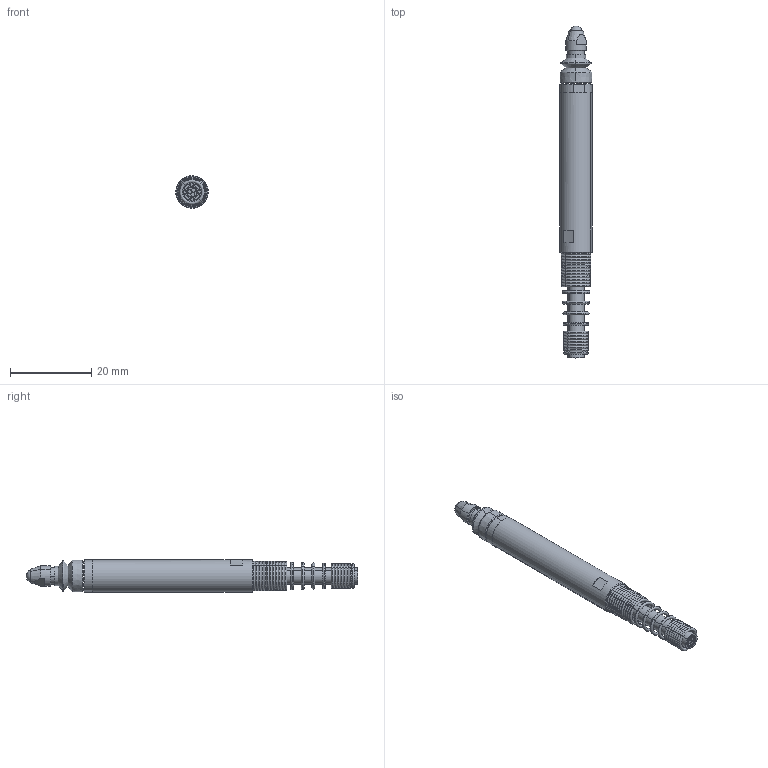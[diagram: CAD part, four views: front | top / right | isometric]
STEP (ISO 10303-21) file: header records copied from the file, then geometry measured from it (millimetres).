
FILE_DESCRIPTION (( 'STEP AP214' ), '1' );
FILE_NAME ('DP-S2.STEP', '2015-10-07T09:14:58', ( 'ysgoodman' ), ( '' ), 'SwSTEP 2.0', 'SolidWorks 2014', '' );
FILE_SCHEMA (( 'AUTOMOTIVE_DESIGN' ));
Length unit declared in the file: millimetre
Products named in the file (1): DP-S2
Bounding box: 8 x 81.85 x 8 mm (x, y, z)
Surface area: 3040.2 mm2 (no closed solid volume)
Topology: 0 solids, 36 shells, 188 faces, 410 edges, 239 vertices
Faces by surface type: torus 108, cylinder 37, plane 27, cone 14, sphere 2
Entity records: 7313 total; most frequent: DIRECTION 1109, CARTESIAN_POINT 890, ORIENTED_EDGE 762, AXIS2_PLACEMENT_3D 519, EDGE_CURVE 405, CIRCLE 330, VERTEX_POINT 236, EDGE_LOOP 205
